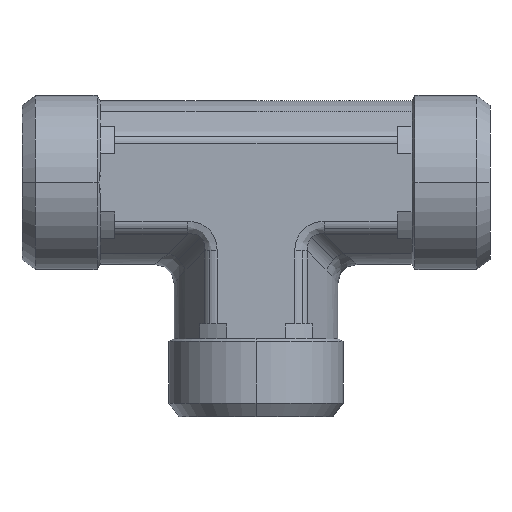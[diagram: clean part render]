
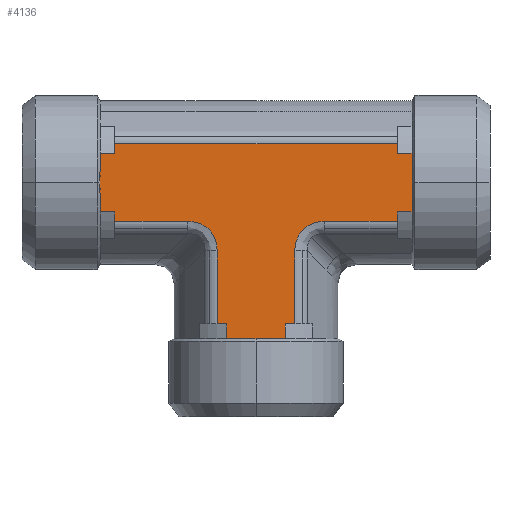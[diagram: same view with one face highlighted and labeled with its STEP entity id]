
A CAD part, left-side view. The second image highlights one B-rep face of the part: STEP entity #4136.
In plain terms, the highlighted planar face has unit normal (-1, 0, 0).
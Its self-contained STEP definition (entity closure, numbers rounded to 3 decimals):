
#668=CARTESIAN_POINT('',(-8.4,16.,12.));
#669=VERTEX_POINT('',#668);
#769=CARTESIAN_POINT('',(-8.4,0.,-4.));
#770=VERTEX_POINT('',#769);
#843=CARTESIAN_POINT('',(-8.4,-16.0,12.));
#844=VERTEX_POINT('',#843);
#952=CARTESIAN_POINT('',(-8.4,7.015,8.016));
#953=VERTEX_POINT('',#952);
#961=CARTESIAN_POINT('',(-8.4,14.5,8.016));
#962=VERTEX_POINT('',#961);
#963=CARTESIAN_POINT('',(-8.4,7.015,8.016));
#964=DIRECTION('',(0.0,1.0,0.0));
#965=VECTOR('',#964,7.485);
#966=LINE('',#963,#965);
#967=EDGE_CURVE('',#953,#962,#966,.T.);
#1320=CARTESIAN_POINT('',(-8.4,-3.984,4.985));
#1321=VERTEX_POINT('',#1320);
#1329=CARTESIAN_POINT('',(-8.4,-3.984,-2.5));
#1330=VERTEX_POINT('',#1329);
#1331=CARTESIAN_POINT('',(-8.4,-3.984,4.985));
#1332=DIRECTION('',(0.0,0.0,-1.0));
#1333=VECTOR('',#1332,7.485);
#1334=LINE('',#1331,#1333);
#1335=EDGE_CURVE('',#1321,#1330,#1334,.T.);
#1726=CARTESIAN_POINT('',(-8.4,14.5,15.984));
#1727=VERTEX_POINT('',#1726);
#1735=CARTESIAN_POINT('',(-8.4,-14.5,15.984));
#1736=VERTEX_POINT('',#1735);
#1737=CARTESIAN_POINT('',(-8.4,14.5,15.984));
#1738=DIRECTION('',(0.0,-1.0,0.0));
#1739=VECTOR('',#1738,29.0);
#1740=LINE('',#1737,#1739);
#1741=EDGE_CURVE('',#1727,#1736,#1740,.T.);
#2183=CARTESIAN_POINT('',(-8.4,-14.5,8.984));
#2184=VERTEX_POINT('',#2183);
#2192=CARTESIAN_POINT('',(-8.4,-14.5,8.016));
#2193=VERTEX_POINT('',#2192);
#2194=CARTESIAN_POINT('',(-8.4,-14.5,8.016));
#2195=DIRECTION('',(0.0,0.0,1.0));
#2196=VECTOR('',#2195,0.968);
#2197=LINE('',#2194,#2196);
#2198=EDGE_CURVE('',#2193,#2184,#2197,.T.);
#2216=CARTESIAN_POINT('',(-8.4,-14.5,15.016));
#2217=VERTEX_POINT('',#2216);
#2218=CARTESIAN_POINT('',(-8.4,-14.5,15.016));
#2219=DIRECTION('',(0.0,0.0,1.0));
#2220=VECTOR('',#2219,0.968);
#2221=LINE('',#2218,#2220);
#2222=EDGE_CURVE('',#2217,#1736,#2221,.T.);
#2297=CARTESIAN_POINT('',(-8.4,-16.0,8.984));
#2298=VERTEX_POINT('',#2297);
#2306=CARTESIAN_POINT('',(-8.4,-14.5,8.984));
#2307=DIRECTION('',(0.0,-1.0,0.0));
#2308=VECTOR('',#2307,1.5);
#2309=LINE('',#2306,#2308);
#2310=EDGE_CURVE('',#2184,#2298,#2309,.T.);
#2371=CARTESIAN_POINT('',(-8.4,-16.0,15.016));
#2372=VERTEX_POINT('',#2371);
#2373=CARTESIAN_POINT('',(-8.4,-16.0,15.016));
#2374=DIRECTION('',(0.0,1.0,0.0));
#2375=VECTOR('',#2374,1.5);
#2376=LINE('',#2373,#2375);
#2377=EDGE_CURVE('',#2372,#2217,#2376,.T.);
#2536=CARTESIAN_POINT('',(-8.4,-7.015,8.016));
#2537=VERTEX_POINT('',#2536);
#2538=CARTESIAN_POINT('',(-8.4,-14.5,8.016));
#2539=DIRECTION('',(0.0,1.0,0.0));
#2540=VECTOR('',#2539,7.485);
#2541=LINE('',#2538,#2540);
#2542=EDGE_CURVE('',#2193,#2537,#2541,.T.);
#2739=CARTESIAN_POINT('',(-8.4,3.016,-2.5));
#2740=VERTEX_POINT('',#2739);
#2748=CARTESIAN_POINT('',(-8.4,3.984,-2.5));
#2749=VERTEX_POINT('',#2748);
#2750=CARTESIAN_POINT('',(-8.4,3.984,-2.5));
#2751=DIRECTION('',(0.0,-1.0,0.0));
#2752=VECTOR('',#2751,0.968);
#2753=LINE('',#2750,#2752);
#2754=EDGE_CURVE('',#2749,#2740,#2753,.T.);
#2772=CARTESIAN_POINT('',(-8.4,-3.016,-2.5));
#2773=VERTEX_POINT('',#2772);
#2774=CARTESIAN_POINT('',(-8.4,-3.016,-2.5));
#2775=DIRECTION('',(0.0,-1.0,0.0));
#2776=VECTOR('',#2775,0.968);
#2777=LINE('',#2774,#2776);
#2778=EDGE_CURVE('',#2773,#1330,#2777,.T.);
#2886=CARTESIAN_POINT('',(-8.4,-3.016,-4.));
#2887=VERTEX_POINT('',#2886);
#2888=CARTESIAN_POINT('',(-8.4,-3.016,-4.));
#2889=DIRECTION('',(0.0,0.0,1.0));
#2890=VECTOR('',#2889,1.5);
#2891=LINE('',#2888,#2890);
#2892=EDGE_CURVE('',#2887,#2773,#2891,.T.);
#2926=CARTESIAN_POINT('',(-8.4,3.016,-4.));
#2927=VERTEX_POINT('',#2926);
#2935=CARTESIAN_POINT('',(-8.4,3.016,-2.5));
#2936=DIRECTION('',(0.0,0.0,-1.0));
#2937=VECTOR('',#2936,1.5);
#2938=LINE('',#2935,#2937);
#2939=EDGE_CURVE('',#2740,#2927,#2938,.T.);
#3171=CARTESIAN_POINT('',(-8.4,3.984,4.985));
#3172=VERTEX_POINT('',#3171);
#3173=CARTESIAN_POINT('',(-8.4,3.984,-2.5));
#3174=DIRECTION('',(0.0,0.0,1.0));
#3175=VECTOR('',#3174,7.485);
#3176=LINE('',#3173,#3175);
#3177=EDGE_CURVE('',#2749,#3172,#3176,.T.);
#3440=CARTESIAN_POINT('',(-8.4,14.5,15.016));
#3441=VERTEX_POINT('',#3440);
#3442=CARTESIAN_POINT('',(-8.4,14.5,15.984));
#3443=DIRECTION('',(0.0,0.0,-1.0));
#3444=VECTOR('',#3443,0.968);
#3445=LINE('',#3442,#3444);
#3446=EDGE_CURVE('',#1727,#3441,#3445,.T.);
#3466=CARTESIAN_POINT('',(-8.4,14.5,8.984));
#3467=VERTEX_POINT('',#3466);
#3468=CARTESIAN_POINT('',(-8.4,14.5,8.984));
#3469=DIRECTION('',(0.0,0.0,-1.0));
#3470=VECTOR('',#3469,0.968);
#3471=LINE('',#3468,#3470);
#3472=EDGE_CURVE('',#3467,#962,#3471,.T.);
#3539=CARTESIAN_POINT('',(-8.4,16.0,15.016));
#3540=VERTEX_POINT('',#3539);
#3541=CARTESIAN_POINT('',(-8.4,14.5,15.016));
#3542=DIRECTION('',(0.0,1.0,0.0));
#3543=VECTOR('',#3542,1.5);
#3544=LINE('',#3541,#3543);
#3545=EDGE_CURVE('',#3441,#3540,#3544,.T.);
#3614=CARTESIAN_POINT('',(-8.4,16.0,8.984));
#3615=VERTEX_POINT('',#3614);
#3616=CARTESIAN_POINT('',(-8.4,16.0,8.984));
#3617=DIRECTION('',(0.0,-1.0,0.0));
#3618=VECTOR('',#3617,1.5);
#3619=LINE('',#3616,#3618);
#3620=EDGE_CURVE('',#3615,#3467,#3619,.T.);
#3722=CARTESIAN_POINT('',(-8.4,16.0,15.016));
#3723=DIRECTION('',(0.0,0.0,-1.0));
#3724=VECTOR('',#3723,3.016);
#3725=LINE('',#3722,#3724);
#3726=EDGE_CURVE('',#3540,#669,#3725,.T.);
#3912=CARTESIAN_POINT('',(-8.4,-16.0,12.));
#3913=DIRECTION('',(0.0,0.0,1.0));
#3914=VECTOR('',#3913,3.016);
#3915=LINE('',#3912,#3914);
#3916=EDGE_CURVE('',#844,#2372,#3915,.T.);
#3970=CARTESIAN_POINT('',(-8.4,0.,-4.));
#3971=DIRECTION('',(0.0,-1.0,0.0));
#3972=VECTOR('',#3971,3.016);
#3973=LINE('',#3970,#3972);
#3974=EDGE_CURVE('',#770,#2887,#3973,.T.);
#4011=CARTESIAN_POINT('',(-8.4,3.016,-4.));
#4012=DIRECTION('',(0.0,-1.0,0.0));
#4013=VECTOR('',#4012,3.016);
#4014=LINE('',#4011,#4013);
#4015=EDGE_CURVE('',#2927,#770,#4014,.T.);
#4059=CARTESIAN_POINT('',(-8.4,16.,12.));
#4060=DIRECTION('',(0.0,0.0,-1.0));
#4061=VECTOR('',#4060,3.016);
#4062=LINE('',#4059,#4061);
#4063=EDGE_CURVE('',#669,#3615,#4062,.T.);
#4083=CARTESIAN_POINT('',(-8.4,-16.0,8.984));
#4084=DIRECTION('',(0.0,0.0,1.0));
#4085=VECTOR('',#4084,3.016);
#4086=LINE('',#4083,#4085);
#4087=EDGE_CURVE('',#2298,#844,#4086,.T.);
#4092=CARTESIAN_POINT('',(-8.4,4.85,12.0));
#4093=DIRECTION('',(-1.0,0.0,0.0));
#4094=DIRECTION('',(0.0,0.0,1.0));
#4095=AXIS2_PLACEMENT_3D('',#4092,#4093,#4094);
#4096=PLANE('',#4095);
#4097=ORIENTED_EDGE('',*,*,#2222,.T.);
#4098=ORIENTED_EDGE('',*,*,#1741,.F.);
#4099=ORIENTED_EDGE('',*,*,#3446,.T.);
#4100=ORIENTED_EDGE('',*,*,#3545,.T.);
#4101=ORIENTED_EDGE('',*,*,#3726,.T.);
#4102=ORIENTED_EDGE('',*,*,#4063,.T.);
#4103=ORIENTED_EDGE('',*,*,#3620,.T.);
#4104=ORIENTED_EDGE('',*,*,#3472,.T.);
#4105=ORIENTED_EDGE('',*,*,#967,.F.);
#4106=CARTESIAN_POINT('',(-8.4,8.025,3.975));
#4107=DIRECTION('',(-1.0,0.,0.));
#4108=DIRECTION('',(0.,-0.707,0.707));
#4109=AXIS2_PLACEMENT_3D('',#4106,#4107,#4108);
#4110=ELLIPSE('',#4109,4.518,3.5);
#4111=EDGE_CURVE('',#3172,#953,#4110,.T.);
#4112=ORIENTED_EDGE('',*,*,#4111,.F.);
#4113=ORIENTED_EDGE('',*,*,#3177,.F.);
#4114=ORIENTED_EDGE('',*,*,#2754,.T.);
#4115=ORIENTED_EDGE('',*,*,#2939,.T.);
#4116=ORIENTED_EDGE('',*,*,#4015,.T.);
#4117=ORIENTED_EDGE('',*,*,#3974,.T.);
#4118=ORIENTED_EDGE('',*,*,#2892,.T.);
#4119=ORIENTED_EDGE('',*,*,#2778,.T.);
#4120=ORIENTED_EDGE('',*,*,#1335,.F.);
#4121=CARTESIAN_POINT('',(-8.4,-8.025,3.975));
#4122=DIRECTION('',(-1.,0.,0.));
#4123=DIRECTION('',(0.,0.707,0.707));
#4124=AXIS2_PLACEMENT_3D('',#4121,#4122,#4123);
#4125=ELLIPSE('',#4124,4.518,3.5);
#4126=EDGE_CURVE('',#2537,#1321,#4125,.T.);
#4127=ORIENTED_EDGE('',*,*,#4126,.F.);
#4128=ORIENTED_EDGE('',*,*,#2542,.F.);
#4129=ORIENTED_EDGE('',*,*,#2198,.T.);
#4130=ORIENTED_EDGE('',*,*,#2310,.T.);
#4131=ORIENTED_EDGE('',*,*,#4087,.T.);
#4132=ORIENTED_EDGE('',*,*,#3916,.T.);
#4133=ORIENTED_EDGE('',*,*,#2377,.T.);
#4134=EDGE_LOOP('',(#4097,#4098,#4099,#4100,#4101,#4102,#4103,#4104,#4105,#4112,#4113,#4114,#4115,#4116,#4117,#4118,#4119,#4120,#4127,#4128,#4129,#4130,#4131,#4132,#4133));
#4135=FACE_OUTER_BOUND('',#4134,.T.);
#4136=ADVANCED_FACE('',(#4135),#4096,.T.);
